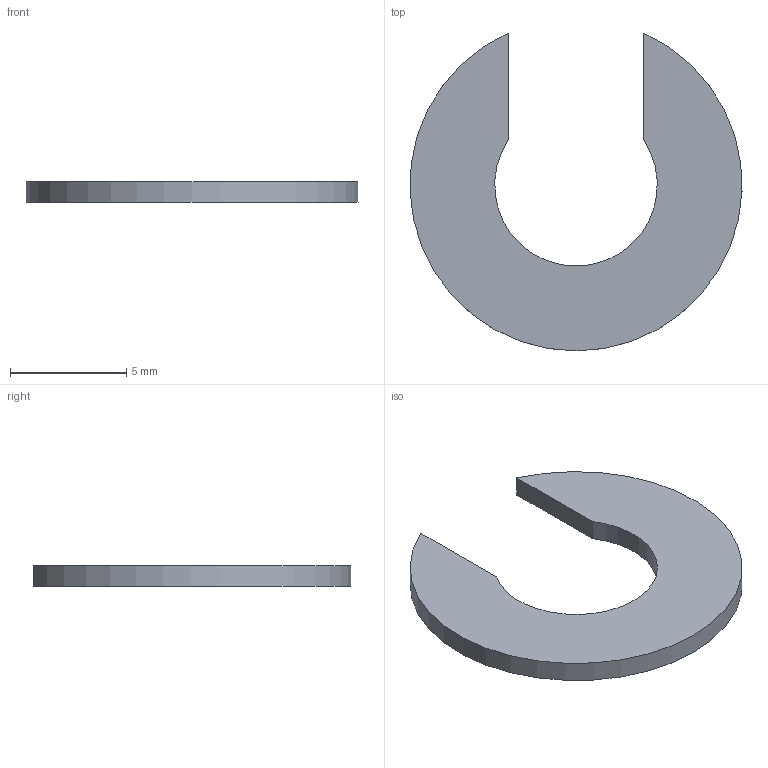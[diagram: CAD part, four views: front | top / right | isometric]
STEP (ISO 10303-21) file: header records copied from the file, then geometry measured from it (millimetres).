
FILE_DESCRIPTION(('Open CASCADE Model'),'2;1');
FILE_NAME('Open CASCADE Shape Model','2026-10-02T07:04:58',('Author'),( 'Open CASCADE'),'Open CASCADE STEP processor 7.9','Open CASCADE 7.9' ,'Unknown');
FILE_SCHEMA(('AUTOMOTIVE_DESIGN { 1 0 10303 214 1 1 1 1 }'));
Length unit declared in the file: millimetre
Products named in the file (1): Open CASCADE STEP translator 7.9 4
Bounding box: 14.29 x 13.68 x 0.9 mm (x, y, z)
Volume: 89.4 mm3; surface area: 255.4 mm2
Topology: 1 solids, 1 shells, 6 faces, 12 edges, 8 vertices
Faces by surface type: plane 4, cylinder 2
Entity records: 324 total; most frequent: CARTESIAN_POINT 71, DIRECTION 44, ORIENTED_EDGE 24, PCURVE 24, DEFINITIONAL_REPRESENTATION 24, LINE 20, VECTOR 20, EDGE_CURVE 12
